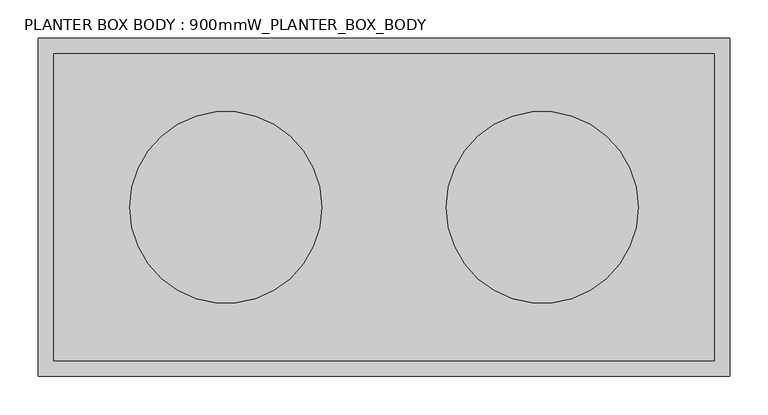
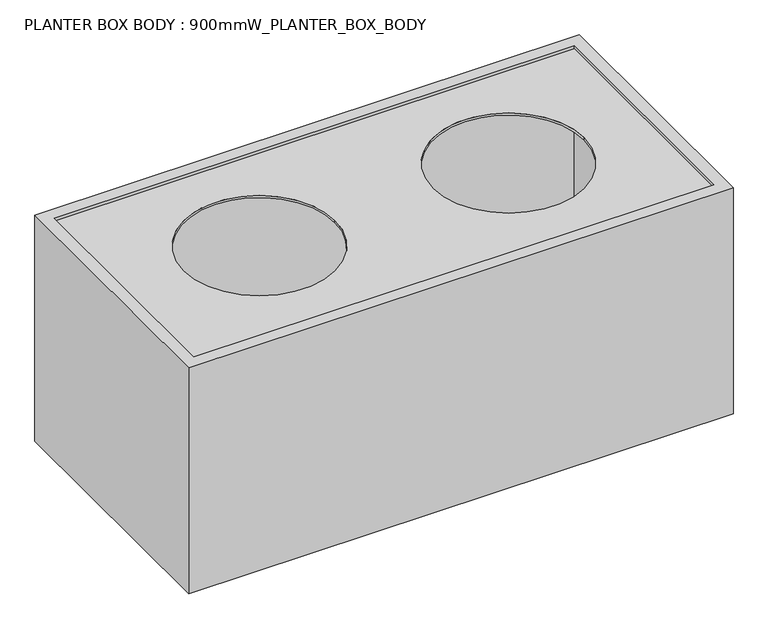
"""IFC4 building model written with IfcOpenShell, lengths in millimetres: furniture geometry, PLANTER BOX BODY : 900mmW_PLANTER_BOX_BODY."""

from ifc_helpers import new_model, si_unit, point, frame, frame_2d, origin, origin_with_axes, place, context, project, spatial, polyline, circle_curve, trimmed, segment, composite_curve, outline, extrude, source, transform, mapped, element, save


def planter_box_body_900mmw_planter_box_body_8011df5e(model_context):
    return source(origin(), model_context, "Body", "SweptSolid", [
        extrude(outline(polyline([(430.0, -200.0), (-430.0, -200.0), (-430.0, 200.0), (430.0, 200.0), (430.0, -200.0)])), origin_with_axes(), (0.0, 0.0, 1.0), 15.0),
        extrude(outline(polyline([(430.0, -200.0), (-430.0, -200.0), (-430.0, 200.0), (430.0, 200.0), (430.0, -200.0)]), holes=[composite_curve([segment(trimmed(circle_curve(frame_2d((-206.0, 0.0)), 125.0), [point((-331.0, 0.0))], [point((-81.0, 0.0))], True, "CARTESIAN"), True, "CONTINUOUS"), segment(trimmed(circle_curve(frame_2d((-206.0, 0.0)), 125.0), [point((-81.0, 0.0))], [point((-331.0, 0.0))], True, "CARTESIAN"), True, "CONTINUOUS")], self_intersect=False), composite_curve([segment(trimmed(circle_curve(frame_2d((206.0, 0.0)), 125.0), [point((81.0, 0.0))], [point((331.0, 0.0))], True, "CARTESIAN"), True, "CONTINUOUS"), segment(trimmed(circle_curve(frame_2d((206.0, 0.0)), 125.0), [point((331.0, 0.0))], [point((81.0, 0.0))], True, "CARTESIAN"), True, "CONTINUOUS")], self_intersect=False)]), frame((0.0, 0.0, 386.4363245), z_axis=(0.0, 0.0, 1.0), x_axis=(1.0, 0.0, 0.0)), (0.0, 0.0, 1.0), 3.5636755),
        extrude(outline(polyline([(450.0, -220.0), (-450.0, -220.0), (-450.0, 220.0), (450.0, 220.0), (450.0, -220.0)]), holes=[polyline([(-430.0, -200.0), (430.0, -200.0), (430.0, 200.0), (-430.0, 200.0), (-430.0, -200.0)])]), origin_with_axes(), (0.0, 0.0, 1.0), 395.0),
    ])


if __name__ == "__main__":
    model = new_model("IFC4")
    model_context = context("Model", 3, world=origin())
    ifc_project = project(units=[si_unit("LENGTHUNIT", "METRE", prefix="MILLI")], contexts=[model_context])
    site = spatial("IfcSite", under=ifc_project)
    building = spatial("IfcBuilding", under=site)
    placement = place(None, origin())
    planter_box_body_900mmw_planter_box_body_shape = planter_box_body_900mmw_planter_box_body_8011df5e(model_context)
    element("IfcFurniture", 1, ObjectType="PLANTER BOX BODY : 900mmW_PLANTER_BOX_BODY", at=placement, inside=building, context=model_context, shape_type="MappedRepresentation", body=[
        mapped(planter_box_body_900mmw_planter_box_body_shape, transform((0.0, 0.0, 0.0), x_axis=(1.0, 0.0, 0.0), y_axis=(0.0, 1.0, 0.0), z_axis=(0.0, 0.0, 1.0))),
    ])
    save(model, "model.ifc")
